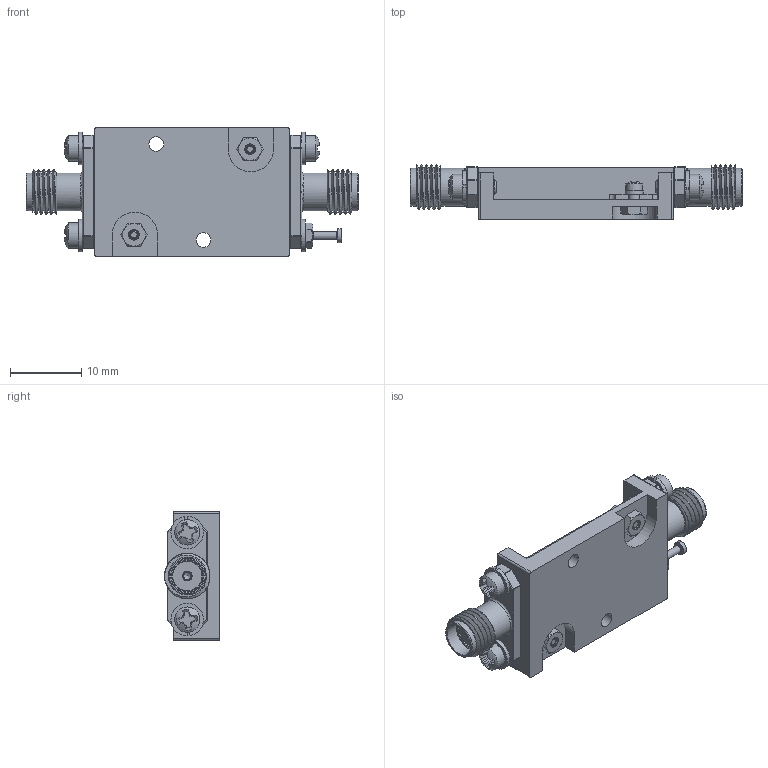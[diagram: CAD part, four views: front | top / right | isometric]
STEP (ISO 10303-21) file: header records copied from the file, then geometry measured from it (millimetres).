
FILE_DESCRIPTION (( 'STEP AP214' ), '1' );
FILE_NAME ('LM-30M8G-2DB-33DBM-12V.STEP', '2026-07-14T20:45:23', ( '' ), ( '' ), 'SwSTEP 2.0', 'SolidWorks 2025', '' );
FILE_SCHEMA (( 'AUTOMOTIVE_DESIGN' ));
Length unit declared in the file: inch
Products named in the file (1): LM-30M8G-2DB-33DBM-12V
Bounding box: 46.48 x 7.67 x 18.03 mm (x, y, z)
Volume: 3189.6 mm3; surface area: 4934.2 mm2
Topology: 29 solids, 29 shells, 793 faces, 2476 edges, 1847 vertices
Faces by surface type: plane 387, cylinder 185, cone 70, torus 66, sphere 65, bspline 20
Full cylindrical faces by diameter (mm): 0.305 x4, 0.381 x2, 0.635 x2, 0.711 x2, 1.016 x4, 1.067 x1, 1.18 x6, 1.27 x4, 1.295 x1, 1.524 x8, 1.575 x2, 1.6 x2, 1.702 x2, 1.93 x4, 1.956 x1, 2.007 x2, 2.057 x2, 2.184 x8, 2.286 x2, 2.515 x2, 2.591 x4, 2.896 x2, 3.175 x1, 3.302 x2, 3.556 x3, 4.191 x4, 4.597 x2, 5.283 x4
Entity records: 42636 total; most frequent: CARTESIAN_POINT 10642, ORIENTED_EDGE 4458, DIRECTION 4129, EDGE_CURVE 2229, VERTEX_POINT 1819, AXIS2_PLACEMENT_3D 1515, EDGE_LOOP 1150, LINE 1099
